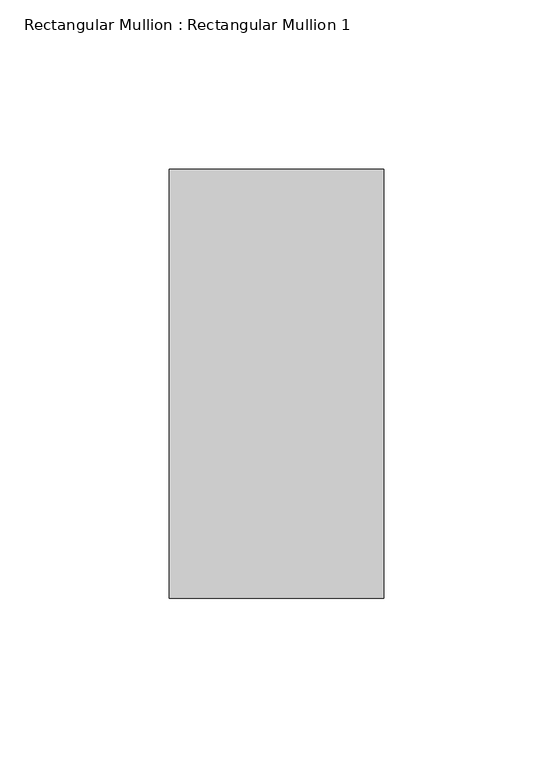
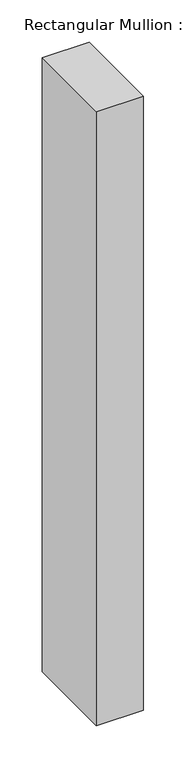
"""IFC4 building model written with IfcOpenShell, lengths in millimetres: member geometry, Rectangular Mullion : Rectangular Mullion 1."""

from ifc_helpers import new_model, si_unit, frame, origin, place, context, project, spatial, polyline, outline, extrude, source, transform, mapped, element, save


def rectangular_mullion_rectangular_mullion_1_049a2e78(model_context):
    return source(origin(), model_context, "Body", "SweptSolid", [
        extrude(outline(polyline([(31.75, 63.5), (31.75, -63.5), (-31.75, -63.5), (-31.75, 63.5), (31.75, 63.5)])), frame((0.0, 0.0, -882.65), z_axis=(0.0, 0.0, 1.0), x_axis=(1.0, 0.0, 0.0)), (0.0, 0.0, 1.0), 882.65),
    ])


if __name__ == "__main__":
    model = new_model("IFC4")
    model_context = context("Model", 3, world=origin())
    ifc_project = project(units=[si_unit("LENGTHUNIT", "METRE", prefix="MILLI")], contexts=[model_context])
    site = spatial("IfcSite", under=ifc_project)
    building = spatial("IfcBuilding", under=site)
    placement = place(None, origin())
    rectangular_mullion_rectangular_mullion_1_shape = rectangular_mullion_rectangular_mullion_1_049a2e78(model_context)
    element("IfcMember", 1, ObjectType="Rectangular Mullion : Rectangular Mullion 1", at=placement, inside=building, context=model_context, shape_type="MappedRepresentation", body=[
        mapped(rectangular_mullion_rectangular_mullion_1_shape, transform((0.0, 0.0, 0.0), x_axis=(1.0, 0.0, 0.0), y_axis=(0.0, 1.0, 0.0), z_axis=(0.0, 0.0, 1.0))),
    ])
    save(model, "model.ifc")
